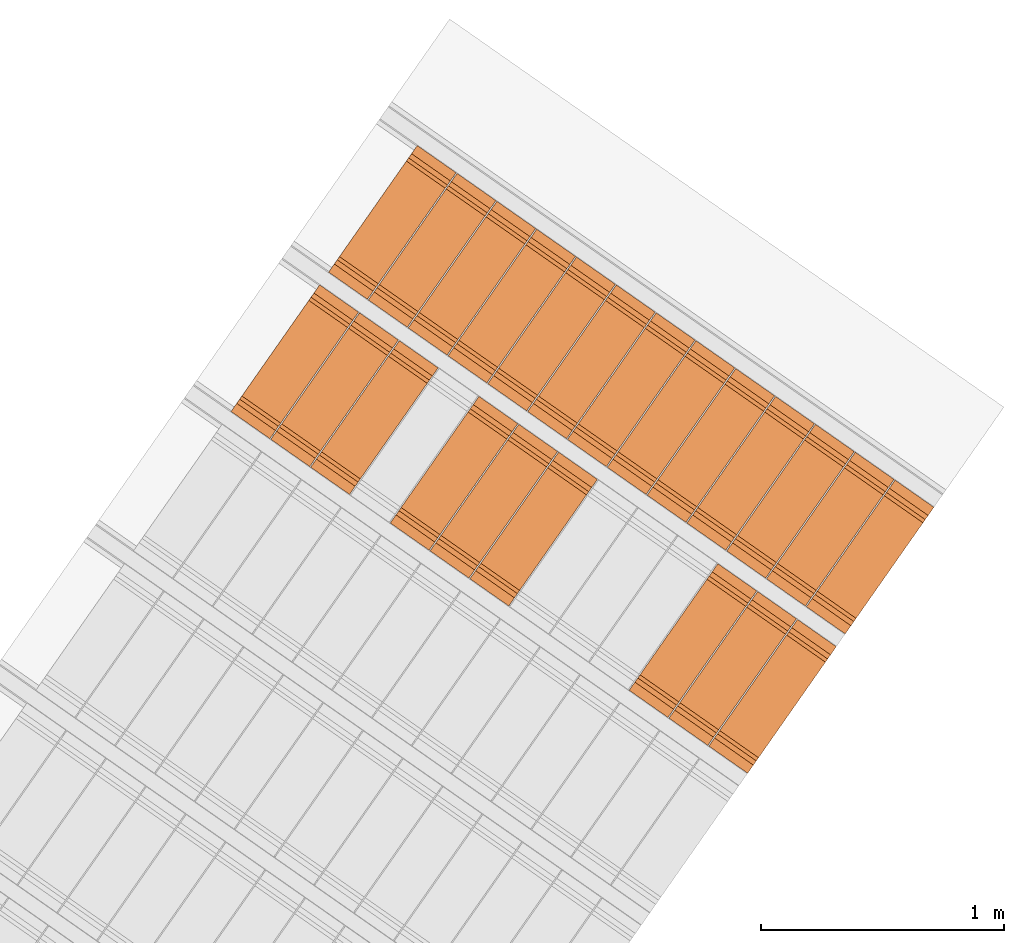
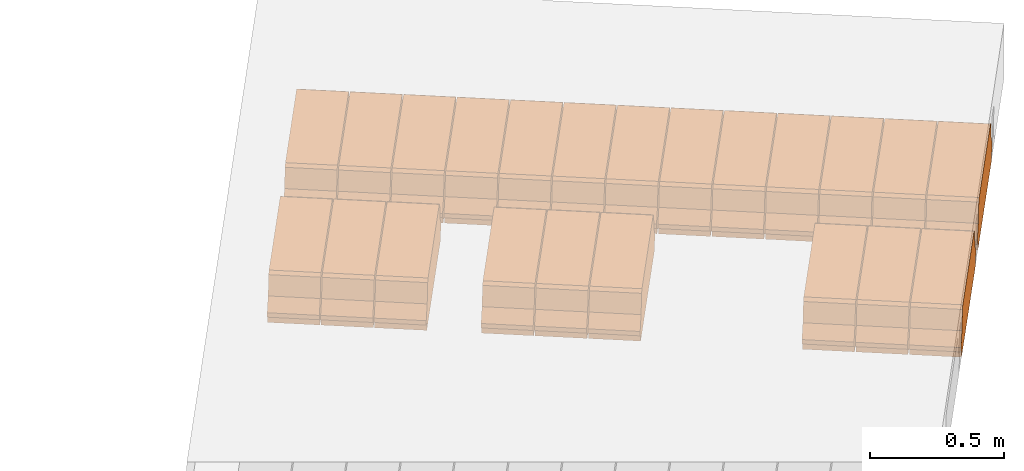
# One storey, part 8 of 8: 22 proxies.
"""IFC2X3 building model written with IfcOpenShell, lengths in metres."""

from ifc_helpers import new_model, entity, si_unit, converted_unit, derived_unit, direction, frame, origin, place, context, subcontext, project, spatial, polyline, outline, extrude, type_object, element, save


model = new_model("IFC2X3")

# Units and contexts
model_context = context("Model", 3, precision=1e-05, world=origin(), true_north=direction((6.123031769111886e-17, 1.0)))
body_context = subcontext(model_context, "Body", "Model", "MODEL_VIEW")
ifc_project = project(units=[si_unit("LENGTHUNIT", "METRE"), si_unit("AREAUNIT", "SQUARE_METRE"), si_unit("VOLUMEUNIT", "CUBIC_METRE"), converted_unit("PLANEANGLEUNIT", "DEGREE", entity("IfcPlaneAngleMeasure", 0.017453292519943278), si_unit("PLANEANGLEUNIT", "RADIAN"), dimensions=[0, 0, 0, 0, 0, 0, 0]), si_unit("MASSUNIT", "GRAM", prefix="KILO"), derived_unit("MASSDENSITYUNIT", [(si_unit("MASSUNIT", "GRAM", prefix="KILO"), 1), (si_unit("LENGTHUNIT", "METRE"), -3)]), derived_unit("IONCONCENTRATIONUNIT", [(si_unit("MASSUNIT", "GRAM", prefix="KILO"), 1), (si_unit("LENGTHUNIT", "METRE"), -3)]), derived_unit("MOMENTOFINERTIAUNIT", [(si_unit("LENGTHUNIT", "METRE"), 4)]), si_unit("TIMEUNIT", "SECOND"), si_unit("FREQUENCYUNIT", "HERTZ"), si_unit("THERMODYNAMICTEMPERATUREUNIT", "DEGREE_CELSIUS"), derived_unit("THERMALTRANSMITTANCEUNIT", [(si_unit("MASSUNIT", "GRAM", prefix="KILO"), 1), (si_unit("THERMODYNAMICTEMPERATUREUNIT", "KELVIN"), -1), (si_unit("TIMEUNIT", "SECOND"), -3)]), derived_unit("THERMALCONDUCTANCEUNIT", [(si_unit("MASSUNIT", "GRAM", prefix="KILO"), 1), (si_unit("THERMODYNAMICTEMPERATUREUNIT", "KELVIN"), -1), (si_unit("TIMEUNIT", "SECOND"), -3), (si_unit("LENGTHUNIT", "METRE"), 1)]), derived_unit("VOLUMETRICFLOWRATEUNIT", [(si_unit("LENGTHUNIT", "METRE", prefix="DECI"), 3), (si_unit("TIMEUNIT", "SECOND"), -1)]), derived_unit("MASSFLOWRATEUNIT", [(si_unit("MASSUNIT", "GRAM", prefix="KILO"), 1), (si_unit("TIMEUNIT", "SECOND"), -1)]), derived_unit("ROTATIONALFREQUENCYUNIT", [(si_unit("TIMEUNIT", "SECOND"), -1)]), si_unit("ELECTRICCURRENTUNIT", "AMPERE"), si_unit("ELECTRICVOLTAGEUNIT", "VOLT"), si_unit("POWERUNIT", "WATT"), si_unit("FORCEUNIT", "NEWTON", prefix="KILO"), si_unit("ILLUMINANCEUNIT", "LUX"), si_unit("LUMINOUSFLUXUNIT", "LUMEN"), si_unit("LUMINOUSINTENSITYUNIT", "CANDELA"), si_unit("ENERGYUNIT", "JOULE"), derived_unit("USERDEFINED", [(si_unit("MASSUNIT", "GRAM", prefix="KILO"), -1), (si_unit("LENGTHUNIT", "METRE"), -2), (si_unit("TIMEUNIT", "SECOND"), 3), (si_unit("LUMINOUSFLUXUNIT", "LUMEN"), 1)]), derived_unit("USERDEFINED", [(si_unit("MASSUNIT", "GRAM", prefix="KILO"), 1), (si_unit("TIMEUNIT", "SECOND"), -3), (si_unit("LENGTHUNIT", "METRE"), 3), (si_unit("ELECTRICCURRENTUNIT", "AMPERE"), -2)]), derived_unit("SOUNDPOWERUNIT", [(si_unit("MASSUNIT", "GRAM", prefix="KILO"), 1), (si_unit("TIMEUNIT", "SECOND"), -3), (si_unit("LENGTHUNIT", "METRE"), 2)]), derived_unit("SOUNDPRESSUREUNIT", [(si_unit("MASSUNIT", "GRAM", prefix="KILO"), 1), (si_unit("LENGTHUNIT", "METRE"), -1), (si_unit("TIMEUNIT", "SECOND"), -2)]), derived_unit("LINEARVELOCITYUNIT", [(si_unit("LENGTHUNIT", "METRE"), 1), (si_unit("TIMEUNIT", "SECOND"), -1)]), si_unit("PRESSUREUNIT", "PASCAL"), derived_unit("USERDEFINED", [(si_unit("MASSUNIT", "GRAM", prefix="KILO"), 1), (si_unit("LENGTHUNIT", "METRE"), -2), (si_unit("TIMEUNIT", "SECOND"), -2)]), derived_unit("LINEARFORCEUNIT", [(si_unit("MASSUNIT", "GRAM", prefix="KILO"), 1), (si_unit("TIMEUNIT", "SECOND"), -2)]), derived_unit("PLANARFORCEUNIT", [(si_unit("MASSUNIT", "GRAM", prefix="KILO"), 1), (si_unit("LENGTHUNIT", "METRE"), -1), (si_unit("TIMEUNIT", "SECOND"), -2)]), derived_unit("SPECIFICHEATCAPACITYUNIT", [(si_unit("THERMODYNAMICTEMPERATUREUNIT", "KELVIN"), -1), (si_unit("LENGTHUNIT", "METRE"), 2), (si_unit("TIMEUNIT", "SECOND"), -2)]), derived_unit("HEATFLUXDENSITYUNIT", [(si_unit("MASSUNIT", "GRAM", prefix="KILO"), 1), (si_unit("TIMEUNIT", "SECOND"), -3)]), derived_unit("HEATINGVALUEUNIT", [(si_unit("LENGTHUNIT", "METRE"), 2), (si_unit("TIMEUNIT", "SECOND"), -2)]), derived_unit("VAPORPERMEABILITYUNIT", [(si_unit("LENGTHUNIT", "METRE"), -1), (si_unit("TIMEUNIT", "SECOND"), 1)]), derived_unit("DYNAMICVISCOSITYUNIT", [(si_unit("MASSUNIT", "GRAM", prefix="KILO"), 1), (si_unit("TIMEUNIT", "SECOND"), -1), (si_unit("LENGTHUNIT", "METRE"), -1)]), derived_unit("THERMALEXPANSIONCOEFFICIENTUNIT", [(si_unit("THERMODYNAMICTEMPERATUREUNIT", "KELVIN"), -1)]), derived_unit("MODULUSOFELASTICITYUNIT", [(si_unit("MASSUNIT", "GRAM", prefix="KILO"), 1), (si_unit("LENGTHUNIT", "METRE"), -1), (si_unit("TIMEUNIT", "SECOND"), -2)]), derived_unit("ISOTHERMALMOISTURECAPACITYUNIT", [(si_unit("MASSUNIT", "GRAM", prefix="KILO"), -1), (si_unit("LENGTHUNIT", "METRE"), 3)]), derived_unit("MOISTUREDIFFUSIVITYUNIT", [(si_unit("TIMEUNIT", "SECOND"), -1), (si_unit("LENGTHUNIT", "METRE"), 2)]), derived_unit("MASSPERLENGTHUNIT", [(si_unit("MASSUNIT", "GRAM", prefix="KILO"), 1), (si_unit("LENGTHUNIT", "METRE"), -1)]), derived_unit("THERMALRESISTANCEUNIT", [(si_unit("MASSUNIT", "GRAM", prefix="KILO"), -1), (si_unit("TIMEUNIT", "SECOND"), 3), (si_unit("THERMODYNAMICTEMPERATUREUNIT", "KELVIN"), 1)]), derived_unit("ACCELERATIONUNIT", [(si_unit("LENGTHUNIT", "METRE"), 1), (si_unit("TIMEUNIT", "SECOND"), -2)]), derived_unit("ANGULARVELOCITYUNIT", [(si_unit("TIMEUNIT", "SECOND"), -1), (si_unit("PLANEANGLEUNIT", "RADIAN"), 1)]), derived_unit("LINEARSTIFFNESSUNIT", [(si_unit("MASSUNIT", "GRAM", prefix="KILO"), 1), (si_unit("TIMEUNIT", "SECOND"), -2)]), derived_unit("WARPINGCONSTANTUNIT", [(si_unit("LENGTHUNIT", "METRE"), 6)]), derived_unit("LINEARMOMENTUNIT", [(si_unit("MASSUNIT", "GRAM", prefix="KILO"), 1), (si_unit("LENGTHUNIT", "METRE"), 1), (si_unit("TIMEUNIT", "SECOND"), -2)]), derived_unit("TORQUEUNIT", [(si_unit("MASSUNIT", "GRAM", prefix="KILO"), 1), (si_unit("LENGTHUNIT", "METRE"), 2), (si_unit("TIMEUNIT", "SECOND"), -2)])], contexts=[model_context])

# Site, building, storey
site_placement = place(None, origin())
site = spatial("IfcSite", under=ifc_project, at=site_placement, Name="Default", CompositionType="ELEMENT")
building_placement = place(site_placement, origin())
building = spatial("IfcBuilding", under=site, at=building_placement, CompositionType="ELEMENT")
storey_placement = place(building_placement, frame((0.0, 0.0, 93.64)))
storey = spatial("IfcBuildingStorey", under=building, at=storey_placement, Name="Depósito_", CompositionType="ELEMENT", Elevation=93.64)

# Proxies
building_element_proxy_type_1 = type_object("IfcBuildingElementProxyType", Name="Bovedilla 5-1 (Paño 2)", PredefinedType="USERDEFINED")
proxy_1_placement = place(storey_placement, origin())
element("IfcBuildingElementProxy", 1, at=proxy_1_placement, inside=storey, type_object=building_element_proxy_type_1, Name="Bovedilla 5-1 (Paño 2)", ObjectType="FORM", context=body_context, shape_type="SweptSolid", body=[
    extrude(outline(polyline([(0.05816607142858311, -0.2949999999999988), (0.08997232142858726, -0.2949999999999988), (0.08997232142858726, 0.295000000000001), (0.05816607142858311, 0.295000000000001), (0.049972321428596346, 0.3180000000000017), (0.029972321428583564, 0.3180000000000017), (-0.018027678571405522, 0.27700000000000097), (-0.10002767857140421, 0.2560000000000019), (-0.11002767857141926, 0.24000000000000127), (-0.11002767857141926, -0.2399999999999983), (-0.10002767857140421, -0.2559999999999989), (-0.018027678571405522, -0.2769999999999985), (0.029972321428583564, -0.3179999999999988), (0.049972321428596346, -0.3179999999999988), (0.05816607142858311, -0.2949999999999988)])), frame((5.758862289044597, 8.026757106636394, 2.1381660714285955), z_axis=(0.8191520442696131, -0.5735764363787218, 0.0), x_axis=(0.0, 0.0, -1.0)), (0.0, 0.0, 1.0), 0.19500000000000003),
])
building_element_proxy_type_2 = type_object("IfcBuildingElementProxyType", Name="Bovedilla 5-2 (Paño 2)", PredefinedType="USERDEFINED")
proxy_2_placement = place(storey_placement, origin())
element("IfcBuildingElementProxy", 2, at=proxy_2_placement, inside=storey, type_object=building_element_proxy_type_2, Name="Bovedilla 5-2 (Paño 2)", ObjectType="FORM", context=body_context, shape_type="SweptSolid", body=[
    extrude(outline(polyline([(0.05816607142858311, -0.2949999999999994), (0.08997232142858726, -0.2949999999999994), (0.08997232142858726, 0.2950000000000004), (0.05816607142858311, 0.2950000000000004), (0.049972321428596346, 0.31800000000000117), (0.029972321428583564, 0.31800000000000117), (-0.018027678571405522, 0.27700000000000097), (-0.10002767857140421, 0.2560000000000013), (-0.11002767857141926, 0.24000000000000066), (-0.11002767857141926, -0.2399999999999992), (-0.10002767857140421, -0.2560000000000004), (-0.018027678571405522, -0.2769999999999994), (0.029972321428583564, -0.3180000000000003), (0.049972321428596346, -0.3180000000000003), (0.05816607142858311, -0.2949999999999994)])), frame((5.5950318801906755, 8.141472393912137, 2.1381660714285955), z_axis=(0.8191520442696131, -0.5735764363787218, 0.0), x_axis=(0.0, 0.0, -1.0)), (0.0, 0.0, 1.0), 0.19500000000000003),
])
building_element_proxy_type_3 = type_object("IfcBuildingElementProxyType", Name="Bovedilla 5-3 (Paño 2)", PredefinedType="USERDEFINED")
proxy_3_placement = place(storey_placement, origin())
element("IfcBuildingElementProxy", 3, at=proxy_3_placement, inside=storey, type_object=building_element_proxy_type_3, Name="Bovedilla 5-3 (Paño 2)", ObjectType="FORM", context=body_context, shape_type="SweptSolid", body=[
    extrude(outline(polyline([(0.05816607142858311, -0.2950000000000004), (0.08997232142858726, -0.2950000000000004), (0.08997232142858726, 0.2949999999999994), (0.05816607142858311, 0.2949999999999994), (0.049972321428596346, 0.3180000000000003), (0.029972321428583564, 0.3180000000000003), (-0.018027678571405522, 0.2770000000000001), (-0.10002767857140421, 0.2560000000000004), (-0.11002767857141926, 0.2399999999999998), (-0.11002767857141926, -0.2399999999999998), (-0.10002767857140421, -0.2560000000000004), (-0.018027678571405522, -0.2770000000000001), (0.029972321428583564, -0.3180000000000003), (0.049972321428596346, -0.3180000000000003), (0.05816607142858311, -0.2950000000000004)])), frame((5.431201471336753, 8.256187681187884, 2.1381660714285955), z_axis=(0.8191520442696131, -0.5735764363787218, 0.0), x_axis=(0.0, 0.0, -1.0)), (0.0, 0.0, 1.0), 0.19500000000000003),
])
building_element_proxy_type_4 = type_object("IfcBuildingElementProxyType", Name="Bovedilla 5-7 (Paño 2)", PredefinedType="USERDEFINED")
proxy_4_placement = place(storey_placement, origin())
element("IfcBuildingElementProxy", 4, at=proxy_4_placement, inside=storey, type_object=building_element_proxy_type_4, Name="Bovedilla 5-7 (Paño 2)", ObjectType="FORM", context=body_context, shape_type="SweptSolid", body=[
    extrude(outline(polyline([(0.05816607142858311, -0.2950000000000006), (0.08997232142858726, -0.2950000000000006), (0.08997232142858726, 0.2949999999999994), (0.05816607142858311, 0.2949999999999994), (0.049972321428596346, 0.3180000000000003), (0.029972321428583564, 0.3180000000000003), (-0.018027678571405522, 0.277), (-0.10002767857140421, 0.2560000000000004), (-0.11002767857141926, 0.2399999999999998), (-0.11002767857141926, -0.2399999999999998), (-0.10002767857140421, -0.2560000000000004), (-0.018027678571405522, -0.27699999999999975), (0.029972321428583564, -0.3180000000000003), (0.049972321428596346, -0.3180000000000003), (0.05816607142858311, -0.2950000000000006)])), frame((4.7758798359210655, 8.715048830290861, 2.1381660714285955), z_axis=(0.8191520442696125, -0.5735764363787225, 0.0), x_axis=(0.0, 0.0, -1.0)), (0.0, 0.0, 1.0), 0.19500000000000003),
])
building_element_proxy_type_5 = type_object("IfcBuildingElementProxyType", Name="Bovedilla 5-8 (Paño 2)", PredefinedType="USERDEFINED")
proxy_5_placement = place(storey_placement, origin())
element("IfcBuildingElementProxy", 5, at=proxy_5_placement, inside=storey, type_object=building_element_proxy_type_5, Name="Bovedilla 5-8 (Paño 2)", ObjectType="FORM", context=body_context, shape_type="SweptSolid", body=[
    extrude(outline(polyline([(0.05816607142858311, -0.2949999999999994), (0.08997232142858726, -0.2949999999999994), (0.08997232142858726, 0.2950000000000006), (0.05816607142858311, 0.2950000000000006), (0.049972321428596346, 0.3180000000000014), (0.029972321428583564, 0.3180000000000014), (-0.018027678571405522, 0.2770000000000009), (-0.10002767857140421, 0.25600000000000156), (-0.11002767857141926, 0.24000000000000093), (-0.11002767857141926, -0.23999999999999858), (-0.10002767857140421, -0.2559999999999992), (-0.018027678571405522, -0.2769999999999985), (0.029972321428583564, -0.31799999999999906), (0.049972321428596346, -0.31799999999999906), (0.05816607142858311, -0.2949999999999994)])), frame((4.61204942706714, 8.829764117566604, 2.1381660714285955), z_axis=(0.8191520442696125, -0.5735764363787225, 0.0), x_axis=(0.0, 0.0, -1.0)), (0.0, 0.0, 1.0), 0.19500000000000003),
])
building_element_proxy_type_6 = type_object("IfcBuildingElementProxyType", Name="Bovedilla 5-9 (Paño 2)", PredefinedType="USERDEFINED")
proxy_6_placement = place(storey_placement, origin())
element("IfcBuildingElementProxy", 6, at=proxy_6_placement, inside=storey, type_object=building_element_proxy_type_6, Name="Bovedilla 5-9 (Paño 2)", ObjectType="FORM", context=body_context, shape_type="SweptSolid", body=[
    extrude(outline(polyline([(0.05816607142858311, -0.2950000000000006), (0.08997232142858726, -0.2950000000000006), (0.08997232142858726, 0.2949999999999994), (0.05816607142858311, 0.2949999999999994), (0.049972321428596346, 0.3180000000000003), (0.029972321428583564, 0.3180000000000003), (-0.018027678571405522, 0.27699999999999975), (-0.10002767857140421, 0.2560000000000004), (-0.11002767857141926, 0.2399999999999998), (-0.11002767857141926, -0.2399999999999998), (-0.10002767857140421, -0.2560000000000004), (-0.018027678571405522, -0.27699999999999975), (0.029972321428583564, -0.3180000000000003), (0.049972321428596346, -0.3180000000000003), (0.05816607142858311, -0.2950000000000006)])), frame((4.4482190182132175, 8.94447940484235, 2.1381660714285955), z_axis=(0.8191520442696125, -0.5735764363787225, 0.0), x_axis=(0.0, 0.0, -1.0)), (0.0, 0.0, 1.0), 0.19500000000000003),
])
building_element_proxy_type_7 = type_object("IfcBuildingElementProxyType", Name="Bovedilla 5-11 (Paño 2)", PredefinedType="USERDEFINED")
proxy_7_placement = place(storey_placement, origin())
element("IfcBuildingElementProxy", 7, at=proxy_7_placement, inside=storey, type_object=building_element_proxy_type_7, Name="Bovedilla 5-11 (Paño 2)", ObjectType="FORM", context=body_context, shape_type="SweptSolid", body=[
    extrude(outline(polyline([(0.05816607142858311, -0.2950000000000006), (0.08997232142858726, -0.2950000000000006), (0.08997232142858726, 0.2949999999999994), (0.05816607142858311, 0.2949999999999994), (0.049972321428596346, 0.3180000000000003), (0.029972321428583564, 0.3180000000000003), (-0.018027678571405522, 0.27699999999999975), (-0.10002767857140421, 0.2560000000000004), (-0.11002767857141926, 0.2399999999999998), (-0.11002767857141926, -0.2399999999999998), (-0.10002767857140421, -0.2560000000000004), (-0.018027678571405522, -0.27699999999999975), (0.029972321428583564, -0.3180000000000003), (0.049972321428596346, -0.3180000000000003), (0.05816607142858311, -0.2950000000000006)])), frame((4.120558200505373, 9.173909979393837, 2.1381660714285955), z_axis=(0.8191520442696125, -0.5735764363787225, 0.0), x_axis=(0.0, 0.0, -1.0)), (0.0, 0.0, 1.0), 0.19500000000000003),
])
building_element_proxy_type_8 = type_object("IfcBuildingElementProxyType", Name="Bovedilla 5-12 (Paño 2)", PredefinedType="USERDEFINED")
proxy_8_placement = place(storey_placement, origin())
element("IfcBuildingElementProxy", 8, at=proxy_8_placement, inside=storey, type_object=building_element_proxy_type_8, Name="Bovedilla 5-12 (Paño 2)", ObjectType="FORM", context=body_context, shape_type="SweptSolid", body=[
    extrude(outline(polyline([(0.05816607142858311, -0.2950000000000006), (0.08997232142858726, -0.2950000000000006), (0.08997232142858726, 0.2949999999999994), (0.05816607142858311, 0.2949999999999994), (0.049972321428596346, 0.31800000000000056), (0.029972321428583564, 0.31800000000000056), (-0.018027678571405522, 0.277), (-0.10002767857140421, 0.25600000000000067), (-0.11002767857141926, 0.24000000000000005), (-0.11002767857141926, -0.23999999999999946), (-0.10002767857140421, -0.25600000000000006), (-0.018027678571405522, -0.2769999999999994), (0.029972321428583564, -0.3180000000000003), (0.049972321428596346, -0.3180000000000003), (0.05816607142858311, -0.2950000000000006)])), frame((3.9567277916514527, 9.28862526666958, 2.1381660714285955), z_axis=(0.8191520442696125, -0.5735764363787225, 0.0), x_axis=(0.0, 0.0, -1.0)), (0.0, 0.0, 1.0), 0.19500000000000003),
])
building_element_proxy_type_9 = type_object("IfcBuildingElementProxyType", Name="Bovedilla 5-13 (Paño 2)", PredefinedType="USERDEFINED")
proxy_9_placement = place(storey_placement, origin())
element("IfcBuildingElementProxy", 9, at=proxy_9_placement, inside=storey, type_object=building_element_proxy_type_9, Name="Bovedilla 5-13 (Paño 2)", ObjectType="FORM", context=body_context, shape_type="SweptSolid", body=[
    extrude(outline(polyline([(0.05816607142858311, -0.2950000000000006), (0.08997232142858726, -0.2950000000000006), (0.08997232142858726, 0.2949999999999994), (0.05816607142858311, 0.2949999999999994), (0.049972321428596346, 0.3180000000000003), (0.029972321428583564, 0.3180000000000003), (-0.018027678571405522, 0.27699999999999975), (-0.10002767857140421, 0.2560000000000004), (-0.11002767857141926, 0.2399999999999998), (-0.11002767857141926, -0.2399999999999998), (-0.10002767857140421, -0.2560000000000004), (-0.018027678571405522, -0.27699999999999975), (0.029972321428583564, -0.3180000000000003), (0.049972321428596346, -0.3180000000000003), (0.05816607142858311, -0.2950000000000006)])), frame((3.792897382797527, 9.403340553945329, 2.1381660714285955), z_axis=(0.8191520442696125, -0.5735764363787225, 0.0), x_axis=(0.0, 0.0, -1.0)), (0.0, 0.0, 1.0), 0.19500000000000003),
])
building_element_proxy_type_10 = type_object("IfcBuildingElementProxyType", Name="Bovedilla 6-1 (Paño 2)", PredefinedType="USERDEFINED")
proxy_10_placement = place(storey_placement, origin())
element("IfcBuildingElementProxy", 10, at=proxy_10_placement, inside=storey, type_object=building_element_proxy_type_10, Name="Bovedilla 6-1 (Paño 2)", ObjectType="FORM", context=body_context, shape_type="SweptSolid", body=[
    extrude(outline(polyline([(0.05816607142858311, -0.2949999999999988), (0.08997232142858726, -0.2949999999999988), (0.08997232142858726, 0.295000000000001), (0.05816607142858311, 0.295000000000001), (0.049972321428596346, 0.3180000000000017), (0.029972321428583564, 0.3180000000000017), (-0.018027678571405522, 0.27700000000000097), (-0.10002767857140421, 0.2560000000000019), (-0.11002767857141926, 0.24000000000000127), (-0.11002767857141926, -0.2399999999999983), (-0.10002767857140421, -0.2559999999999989), (-0.018027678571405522, -0.2769999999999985), (0.029972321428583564, -0.3179999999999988), (0.049972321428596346, -0.3179999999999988), (0.05816607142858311, -0.2949999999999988)])), frame((6.160365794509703, 8.600163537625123, 2.1381660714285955), z_axis=(0.8191520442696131, -0.5735764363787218, 0.0), x_axis=(0.0, 0.0, -1.0)), (0.0, 0.0, 1.0), 0.19500000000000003),
])
building_element_proxy_type_11 = type_object("IfcBuildingElementProxyType", Name="Bovedilla 6-2 (Paño 2)", PredefinedType="USERDEFINED")
proxy_11_placement = place(storey_placement, origin())
element("IfcBuildingElementProxy", 11, at=proxy_11_placement, inside=storey, type_object=building_element_proxy_type_11, Name="Bovedilla 6-2 (Paño 2)", ObjectType="FORM", context=body_context, shape_type="SweptSolid", body=[
    extrude(outline(polyline([(0.05816607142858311, -0.2949999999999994), (0.08997232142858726, -0.2949999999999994), (0.08997232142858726, 0.2950000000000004), (0.05816607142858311, 0.2950000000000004), (0.049972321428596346, 0.31800000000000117), (0.029972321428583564, 0.31800000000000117), (-0.018027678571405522, 0.27700000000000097), (-0.10002767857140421, 0.2560000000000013), (-0.11002767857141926, 0.24000000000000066), (-0.11002767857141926, -0.2399999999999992), (-0.10002767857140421, -0.2560000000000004), (-0.018027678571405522, -0.2769999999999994), (0.029972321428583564, -0.3180000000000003), (0.049972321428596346, -0.3180000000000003), (0.05816607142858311, -0.2949999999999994)])), frame((5.996535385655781, 8.714878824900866, 2.1381660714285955), z_axis=(0.8191520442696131, -0.5735764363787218, 0.0), x_axis=(0.0, 0.0, -1.0)), (0.0, 0.0, 1.0), 0.19500000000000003),
])
building_element_proxy_type_12 = type_object("IfcBuildingElementProxyType", Name="Bovedilla 6-3 (Paño 2)", PredefinedType="USERDEFINED")
proxy_12_placement = place(storey_placement, origin())
element("IfcBuildingElementProxy", 12, at=proxy_12_placement, inside=storey, type_object=building_element_proxy_type_12, Name="Bovedilla 6-3 (Paño 2)", ObjectType="FORM", context=body_context, shape_type="SweptSolid", body=[
    extrude(outline(polyline([(0.05816607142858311, -0.2949999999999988), (0.08997232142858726, -0.2949999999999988), (0.08997232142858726, 0.2950000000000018), (0.05816607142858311, 0.2950000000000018), (0.049972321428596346, 0.3180000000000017), (0.029972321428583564, 0.3180000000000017), (-0.018027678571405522, 0.27700000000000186), (-0.10002767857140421, 0.2560000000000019), (-0.11002767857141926, 0.24000000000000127), (-0.11002767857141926, -0.2399999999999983), (-0.10002767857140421, -0.2559999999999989), (-0.018027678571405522, -0.2769999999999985), (0.029972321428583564, -0.3179999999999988), (0.049972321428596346, -0.3179999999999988), (0.05816607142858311, -0.2949999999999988)])), frame((5.832704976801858, 8.829594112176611, 2.1381660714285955), z_axis=(0.8191520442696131, -0.5735764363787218, 0.0), x_axis=(0.0, 0.0, -1.0)), (0.0, 0.0, 1.0), 0.19500000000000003),
])
building_element_proxy_type_13 = type_object("IfcBuildingElementProxyType", Name="Bovedilla 6-4 (Paño 2)", PredefinedType="USERDEFINED")
proxy_13_placement = place(storey_placement, origin())
element("IfcBuildingElementProxy", 13, at=proxy_13_placement, inside=storey, type_object=building_element_proxy_type_13, Name="Bovedilla 6-4 (Paño 2)", ObjectType="FORM", context=body_context, shape_type="SweptSolid", body=[
    extrude(outline(polyline([(0.05816607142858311, -0.2950000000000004), (0.08997232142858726, -0.2950000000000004), (0.08997232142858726, 0.2949999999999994), (0.05816607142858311, 0.2949999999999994), (0.049972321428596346, 0.3180000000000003), (0.029972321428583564, 0.3180000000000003), (-0.018027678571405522, 0.2770000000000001), (-0.10002767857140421, 0.2560000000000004), (-0.11002767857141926, 0.2399999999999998), (-0.11002767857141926, -0.2399999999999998), (-0.10002767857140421, -0.2560000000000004), (-0.018027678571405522, -0.2770000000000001), (0.029972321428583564, -0.3180000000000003), (0.049972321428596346, -0.3180000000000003), (0.05816607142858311, -0.2950000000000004)])), frame((5.668874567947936, 8.944309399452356, 2.1381660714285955), z_axis=(0.8191520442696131, -0.5735764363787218, 0.0), x_axis=(0.0, 0.0, -1.0)), (0.0, 0.0, 1.0), 0.19500000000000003),
])
building_element_proxy_type_14 = type_object("IfcBuildingElementProxyType", Name="Bovedilla 6-5 (Paño 2)", PredefinedType="USERDEFINED")
proxy_14_placement = place(storey_placement, origin())
element("IfcBuildingElementProxy", 14, at=proxy_14_placement, inside=storey, type_object=building_element_proxy_type_14, Name="Bovedilla 6-5 (Paño 2)", ObjectType="FORM", context=body_context, shape_type="SweptSolid", body=[
    extrude(outline(polyline([(0.05816607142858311, -0.2949999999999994), (0.08997232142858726, -0.2949999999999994), (0.08997232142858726, 0.2950000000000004), (0.05816607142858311, 0.2950000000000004), (0.049972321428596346, 0.31800000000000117), (0.029972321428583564, 0.31800000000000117), (-0.018027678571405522, 0.27700000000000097), (-0.10002767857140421, 0.2560000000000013), (-0.11002767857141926, 0.24000000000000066), (-0.11002767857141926, -0.2399999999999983), (-0.10002767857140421, -0.2559999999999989), (-0.018027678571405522, -0.2769999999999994), (0.029972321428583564, -0.3179999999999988), (0.049972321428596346, -0.3179999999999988), (0.05816607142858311, -0.2949999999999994)])), frame((5.505044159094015, 9.059024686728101, 2.1381660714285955), z_axis=(0.8191520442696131, -0.5735764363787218, 0.0), x_axis=(0.0, 0.0, -1.0)), (0.0, 0.0, 1.0), 0.19500000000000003),
])
building_element_proxy_type_15 = type_object("IfcBuildingElementProxyType", Name="Bovedilla 6-6 (Paño 2)", PredefinedType="USERDEFINED")
proxy_15_placement = place(storey_placement, origin())
element("IfcBuildingElementProxy", 15, at=proxy_15_placement, inside=storey, type_object=building_element_proxy_type_15, Name="Bovedilla 6-6 (Paño 2)", ObjectType="FORM", context=body_context, shape_type="SweptSolid", body=[
    extrude(outline(polyline([(0.05816607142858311, -0.2949999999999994), (0.08997232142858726, -0.2949999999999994), (0.08997232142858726, 0.2950000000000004), (0.05816607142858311, 0.2950000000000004), (0.049972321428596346, 0.31800000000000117), (0.029972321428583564, 0.31800000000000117), (-0.018027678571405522, 0.27700000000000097), (-0.10002767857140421, 0.2560000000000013), (-0.11002767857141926, 0.24000000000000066), (-0.11002767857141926, -0.2399999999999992), (-0.10002767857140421, -0.2560000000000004), (-0.018027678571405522, -0.2769999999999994), (0.029972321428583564, -0.3180000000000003), (0.049972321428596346, -0.3180000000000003), (0.05816607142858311, -0.2949999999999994)])), frame((5.341213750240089, 9.173739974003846, 2.1381660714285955), z_axis=(0.8191520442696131, -0.5735764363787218, 0.0), x_axis=(0.0, 0.0, -1.0)), (0.0, 0.0, 1.0), 0.19500000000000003),
])
building_element_proxy_type_16 = type_object("IfcBuildingElementProxyType", Name="Bovedilla 6-7 (Paño 2)", PredefinedType="USERDEFINED")
proxy_16_placement = place(storey_placement, origin())
element("IfcBuildingElementProxy", 16, at=proxy_16_placement, inside=storey, type_object=building_element_proxy_type_16, Name="Bovedilla 6-7 (Paño 2)", ObjectType="FORM", context=body_context, shape_type="SweptSolid", body=[
    extrude(outline(polyline([(0.05816607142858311, -0.29499999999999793), (0.08997232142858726, -0.29499999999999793), (0.08997232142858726, 0.2950000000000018), (0.05816607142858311, 0.2950000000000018), (0.049972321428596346, 0.3180000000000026), (0.029972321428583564, 0.3180000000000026), (-0.018027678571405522, 0.27700000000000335), (-0.10002767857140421, 0.2560000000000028), (-0.11002767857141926, 0.24000000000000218), (-0.11002767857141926, -0.23999999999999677), (-0.10002767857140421, -0.2559999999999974), (-0.018027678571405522, -0.276999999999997), (0.029972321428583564, -0.31799999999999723), (0.049972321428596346, -0.31799999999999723), (0.05816607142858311, -0.29499999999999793)])), frame((5.177383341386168, 9.288455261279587, 2.1381660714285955), z_axis=(0.8191520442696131, -0.5735764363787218, 0.0), x_axis=(0.0, 0.0, -1.0)), (0.0, 0.0, 1.0), 0.19500000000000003),
])
building_element_proxy_type_17 = type_object("IfcBuildingElementProxyType", Name="Bovedilla 6-8 (Paño 2)", PredefinedType="USERDEFINED")
proxy_17_placement = place(storey_placement, origin())
element("IfcBuildingElementProxy", 17, at=proxy_17_placement, inside=storey, type_object=building_element_proxy_type_17, Name="Bovedilla 6-8 (Paño 2)", ObjectType="FORM", context=body_context, shape_type="SweptSolid", body=[
    extrude(outline(polyline([(0.05816607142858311, -0.2950000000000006), (0.08997232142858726, -0.2950000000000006), (0.08997232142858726, 0.2949999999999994), (0.05816607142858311, 0.2949999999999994), (0.049972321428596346, 0.3180000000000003), (0.029972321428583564, 0.3180000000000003), (-0.018027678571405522, 0.277), (-0.10002767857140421, 0.2560000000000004), (-0.11002767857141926, 0.2399999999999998), (-0.11002767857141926, -0.2399999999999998), (-0.10002767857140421, -0.2560000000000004), (-0.018027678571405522, -0.27699999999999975), (0.029972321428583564, -0.3180000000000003), (0.049972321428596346, -0.3180000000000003), (0.05816607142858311, -0.2950000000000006)])), frame((5.013552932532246, 9.403170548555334, 2.1381660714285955), z_axis=(0.8191520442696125, -0.5735764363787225, 0.0), x_axis=(0.0, 0.0, -1.0)), (0.0, 0.0, 1.0), 0.19500000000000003),
])
building_element_proxy_type_18 = type_object("IfcBuildingElementProxyType", Name="Bovedilla 6-9 (Paño 2)", PredefinedType="USERDEFINED")
proxy_18_placement = place(storey_placement, origin())
element("IfcBuildingElementProxy", 18, at=proxy_18_placement, inside=storey, type_object=building_element_proxy_type_18, Name="Bovedilla 6-9 (Paño 2)", ObjectType="FORM", context=body_context, shape_type="SweptSolid", body=[
    extrude(outline(polyline([(0.05816607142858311, -0.2950000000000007), (0.08997232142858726, -0.2950000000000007), (0.08997232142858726, 0.2950000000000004), (0.05816607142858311, 0.2950000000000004), (0.049972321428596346, 0.3179999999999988), (0.029972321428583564, 0.3179999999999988), (-0.018027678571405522, 0.27699999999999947), (-0.10002767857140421, 0.25600000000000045), (-0.11002767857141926, 0.2399999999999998), (-0.11002767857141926, -0.2399999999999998), (-0.10002767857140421, -0.25600000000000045), (-0.018027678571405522, -0.27699999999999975), (0.029972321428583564, -0.3180000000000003), (0.049972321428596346, -0.3180000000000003), (0.05816607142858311, -0.2950000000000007)])), frame((4.849722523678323, 9.517885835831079, 2.1381660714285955), z_axis=(0.8191520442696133, -0.5735764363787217, 0.0), x_axis=(0.0, 0.0, -1.0)), (0.0, 0.0, 1.0), 0.19499999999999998),
])
building_element_proxy_type_19 = type_object("IfcBuildingElementProxyType", Name="Bovedilla 6-10 (Paño 2)", PredefinedType="USERDEFINED")
proxy_19_placement = place(storey_placement, origin())
element("IfcBuildingElementProxy", 19, at=proxy_19_placement, inside=storey, type_object=building_element_proxy_type_19, Name="Bovedilla 6-10 (Paño 2)", ObjectType="FORM", context=body_context, shape_type="SweptSolid", body=[
    extrude(outline(polyline([(0.05816607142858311, -0.2950000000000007), (0.08997232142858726, -0.2950000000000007), (0.08997232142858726, 0.2950000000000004), (0.05816607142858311, 0.2950000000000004), (0.049972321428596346, 0.31799999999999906), (0.029972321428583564, 0.31799999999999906), (-0.018027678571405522, 0.27699999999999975), (-0.10002767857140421, 0.25600000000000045), (-0.11002767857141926, 0.2400000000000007), (-0.11002767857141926, -0.2399999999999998), (-0.10002767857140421, -0.25600000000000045), (-0.018027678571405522, -0.27699999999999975), (0.029972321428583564, -0.3180000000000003), (0.049972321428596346, -0.3180000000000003), (0.05816607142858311, -0.2950000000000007)])), frame((4.685892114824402, 9.632601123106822, 2.1381660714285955), z_axis=(0.8191520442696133, -0.5735764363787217, 0.0), x_axis=(0.0, 0.0, -1.0)), (0.0, 0.0, 1.0), 0.19499999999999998),
])
building_element_proxy_type_20 = type_object("IfcBuildingElementProxyType", Name="Bovedilla 6-11 (Paño 2)", PredefinedType="USERDEFINED")
proxy_20_placement = place(storey_placement, origin())
element("IfcBuildingElementProxy", 20, at=proxy_20_placement, inside=storey, type_object=building_element_proxy_type_20, Name="Bovedilla 6-11 (Paño 2)", ObjectType="FORM", context=body_context, shape_type="SweptSolid", body=[
    extrude(outline(polyline([(0.05816607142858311, -0.29499999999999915), (0.08997232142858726, -0.29499999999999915), (0.08997232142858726, 0.29500000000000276), (0.05816607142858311, 0.29500000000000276), (0.049972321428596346, 0.3180000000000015), (0.029972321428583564, 0.3180000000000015), (-0.018027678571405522, 0.27700000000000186), (-0.10002767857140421, 0.25600000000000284), (-0.11002767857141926, 0.2400000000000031), (-0.11002767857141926, -0.2399999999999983), (-0.10002767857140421, -0.25599999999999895), (-0.018027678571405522, -0.2769999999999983), (0.029972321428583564, -0.3179999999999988), (0.049972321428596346, -0.3179999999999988), (0.05816607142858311, -0.29499999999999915)])), frame((4.5220617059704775, 9.747316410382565, 2.1381660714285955), z_axis=(0.8191520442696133, -0.5735764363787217, 0.0), x_axis=(0.0, 0.0, -1.0)), (0.0, 0.0, 1.0), 0.19499999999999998),
])
building_element_proxy_type_21 = type_object("IfcBuildingElementProxyType", Name="Bovedilla 6-12 (Paño 2)", PredefinedType="USERDEFINED")
proxy_21_placement = place(storey_placement, origin())
element("IfcBuildingElementProxy", 21, at=proxy_21_placement, inside=storey, type_object=building_element_proxy_type_21, Name="Bovedilla 6-12 (Paño 2)", ObjectType="FORM", context=body_context, shape_type="SweptSolid", body=[
    extrude(outline(polyline([(0.05816607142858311, -0.29500000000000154), (0.08997232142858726, -0.29500000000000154), (0.08997232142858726, 0.2950000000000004), (0.05816607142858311, 0.2950000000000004), (0.049972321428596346, 0.3179999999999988), (0.029972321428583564, 0.3179999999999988), (-0.018027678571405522, 0.27699999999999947), (-0.10002767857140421, 0.25600000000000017), (-0.11002767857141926, 0.2400000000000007), (-0.11002767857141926, -0.2400000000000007), (-0.10002767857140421, -0.25600000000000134), (-0.018027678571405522, -0.27700000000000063), (0.029972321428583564, -0.3180000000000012), (0.049972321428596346, -0.3180000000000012), (0.05816607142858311, -0.29500000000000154)])), frame((4.358231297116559, 9.862031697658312, 2.1381660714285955), z_axis=(0.8191520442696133, -0.5735764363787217, 0.0), x_axis=(0.0, 0.0, -1.0)), (0.0, 0.0, 1.0), 0.19499999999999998),
])
building_element_proxy_type_22 = type_object("IfcBuildingElementProxyType", Name="Bovedilla 6-13 (Paño 2)", PredefinedType="USERDEFINED")
proxy_22_placement = place(storey_placement, origin())
element("IfcBuildingElementProxy", 22, at=proxy_22_placement, inside=storey, type_object=building_element_proxy_type_22, Name="Bovedilla 6-13 (Paño 2)", ObjectType="FORM", context=body_context, shape_type="SweptSolid", body=[
    extrude(outline(polyline([(0.05816607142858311, -0.2950000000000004), (0.08997232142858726, -0.2950000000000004), (0.08997232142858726, 0.2950000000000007), (0.05816607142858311, 0.2950000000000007), (0.049972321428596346, 0.31799999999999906), (0.029972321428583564, 0.31799999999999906), (-0.018027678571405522, 0.27699999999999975), (-0.10002767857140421, 0.25600000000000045), (-0.11002767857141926, 0.24000000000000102), (-0.11002767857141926, -0.2400000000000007), (-0.10002767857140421, -0.25600000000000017), (-0.018027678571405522, -0.27699999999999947), (0.029972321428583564, -0.318), (0.049972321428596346, -0.318), (0.05816607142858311, -0.2950000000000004)])), frame((4.194400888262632, 9.976746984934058, 2.1381660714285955), z_axis=(0.8191520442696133, -0.5735764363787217, 0.0), x_axis=(0.0, 0.0, -1.0)), (0.0, 0.0, 1.0), 0.19499999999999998),
])

save(model, "model.ifc")
